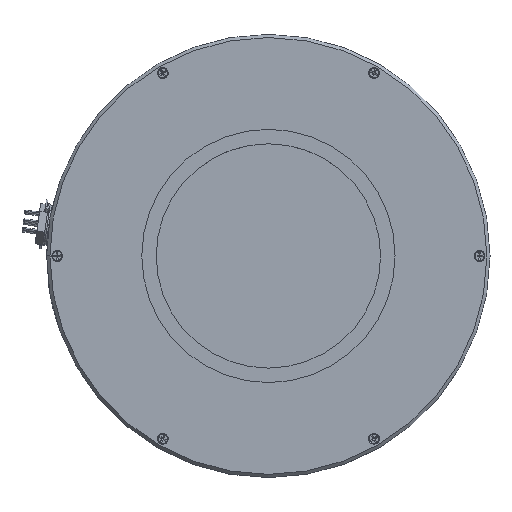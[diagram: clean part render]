
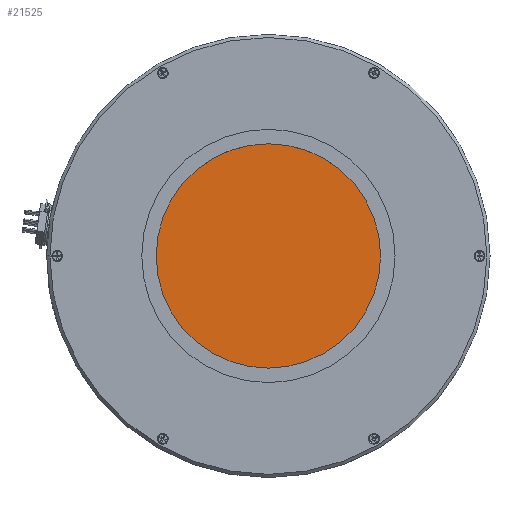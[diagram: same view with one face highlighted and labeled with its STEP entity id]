
A CAD part, top view. The second image highlights one B-rep face of the part: STEP entity #21525.
In plain terms, the highlighted planar face has unit normal (0, 0, 1).
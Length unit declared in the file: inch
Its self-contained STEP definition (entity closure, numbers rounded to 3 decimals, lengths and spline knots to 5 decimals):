
#19240 = CARTESIAN_POINT ( 'NONE',  ( 1.85, 0., -0.055 ) ) ;
#19308 = FACE_OUTER_BOUND ( 'NONE', #21537, .T. ) ;
#19314 = AXIS2_PLACEMENT_3D ( 'NONE', #19319, #19437, #19436 ) ;
#19319 = CARTESIAN_POINT ( 'NONE',  ( 0., 0., -0.055 ) ) ;
#19373 = PLANE ( 'NONE',  #19314 ) ;
#19398 = CARTESIAN_POINT ( 'NONE',  ( 0., 0., -0.055 ) ) ;
#19414 = CIRCLE ( 'NONE', #19456, 1.85 ) ;
#19415 = CARTESIAN_POINT ( 'NONE',  ( -1.85, 0., -0.055 ) ) ;
#19436 = DIRECTION ( 'NONE',  ( 1., 0., 0. ) ) ;
#19437 = DIRECTION ( 'NONE',  ( 0., 0., 1. ) ) ;
#19454 = DIRECTION ( 'NONE',  ( 1., 0., 0. ) ) ;
#19455 = DIRECTION ( 'NONE',  ( 0., 0., 1. ) ) ;
#19456 = AXIS2_PLACEMENT_3D ( 'NONE', #19398, #19455, #19454 ) ;
#19484 = DIRECTION ( 'NONE',  ( 1., 0., 0. ) ) ;
#19485 = DIRECTION ( 'NONE',  ( 0., 0., 1. ) ) ;
#19486 = CARTESIAN_POINT ( 'NONE',  ( 0., 0., -0.055 ) ) ;
#19487 = AXIS2_PLACEMENT_3D ( 'NONE', #19486, #19485, #19484 ) ;
#19495 = CIRCLE ( 'NONE', #19487, 1.85 ) ;
#21498 = VERTEX_POINT ( 'NONE', #19240 ) ;
#21522 = ORIENTED_EDGE ( 'NONE', *, *, #21556, .T. ) ;
#21525 = ADVANCED_FACE ( 'NONE', ( #19308 ), #19373, .T. ) ;
#21537 = EDGE_LOOP ( 'NONE', ( #21522, #21581 ) ) ;
#21539 = VERTEX_POINT ( 'NONE', #19415 ) ;
#21549 = EDGE_CURVE ( 'NONE', #21498, #21539, #19414, .T. ) ;
#21556 = EDGE_CURVE ( 'NONE', #21539, #21498, #19495, .T. ) ;
#21581 = ORIENTED_EDGE ( 'NONE', *, *, #21549, .T. ) ;
